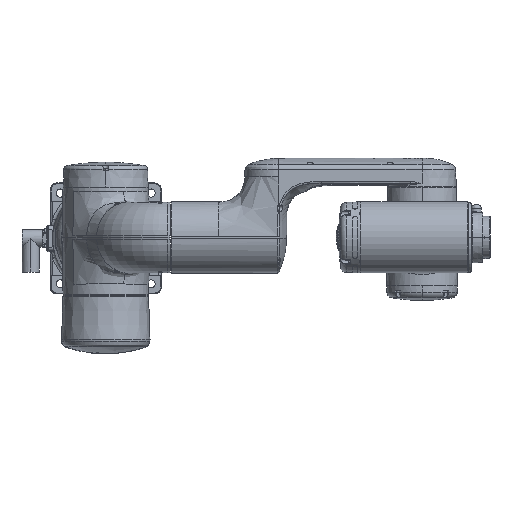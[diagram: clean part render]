
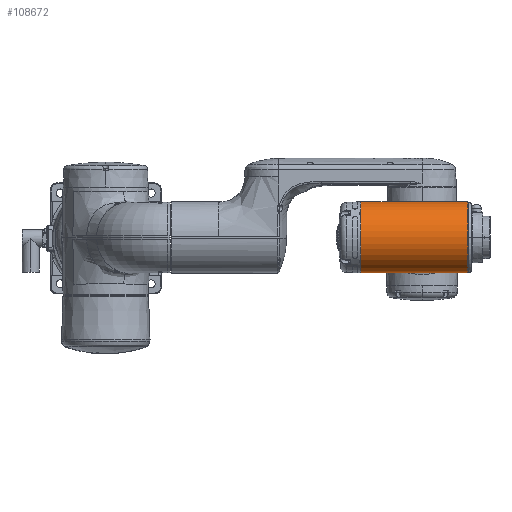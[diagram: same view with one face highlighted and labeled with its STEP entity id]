
A CAD part, top view. The second image highlights one B-rep face of the part: STEP entity #108672.
In plain terms, the highlighted cylindrical face has radius 52.75 mm (diameter 105.5 mm), a partial arc.
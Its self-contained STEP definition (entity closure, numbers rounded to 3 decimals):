
#3991 = VECTOR ( 'NONE', #4754, 1000. ) ;
#4754 = DIRECTION ( 'NONE',  ( -1., 0., 0. ) ) ;
#7292 = LINE ( 'NONE', #36600, #3991 ) ;
#7694 = CARTESIAN_POINT ( 'NONE',  ( 379., 0., 899. ) ) ;
#8136 = DIRECTION ( 'NONE',  ( 1., 0., 0. ) ) ;
#12856 = CIRCLE ( 'NONE', #23726, 52.75 ) ;
#15051 = EDGE_CURVE ( 'NONE', #103945, #23596, #12856, .T. ) ;
#18197 = AXIS2_PLACEMENT_3D ( 'NONE', #7694, #8136, #80394 ) ;
#18365 = CARTESIAN_POINT ( 'NONE',  ( 215.775, 0., 899. ) ) ;
#23596 = VERTEX_POINT ( 'NONE', #26800 ) ;
#23726 = AXIS2_PLACEMENT_3D ( 'NONE', #72506, #74275, #103907 ) ;
#24477 = CIRCLE ( 'NONE', #18197, 52.75 ) ;
#26800 = CARTESIAN_POINT ( 'NONE',  ( 538., -52.75, 899. ) ) ;
#29603 = CARTESIAN_POINT ( 'NONE',  ( 379., 52.75, 899. ) ) ;
#30029 = VERTEX_POINT ( 'NONE', #112909 ) ;
#30874 = ORIENTED_EDGE ( 'NONE', *, *, #36866, .T. ) ;
#36600 = CARTESIAN_POINT ( 'NONE',  ( 215.775, 52.75, 899. ) ) ;
#36866 = EDGE_CURVE ( 'NONE', #103945, #127969, #7292, .T. ) ;
#49734 = LINE ( 'NONE', #109877, #89896 ) ;
#54790 = ORIENTED_EDGE ( 'NONE', *, *, #15051, .F. ) ;
#55912 = FACE_OUTER_BOUND ( 'NONE', #126119, .T. ) ;
#72506 = CARTESIAN_POINT ( 'NONE',  ( 538., 0., 899. ) ) ;
#74275 = DIRECTION ( 'NONE',  ( 1., 0., 0. ) ) ;
#76270 = EDGE_CURVE ( 'NONE', #23596, #30029, #49734, .T. ) ;
#78709 = ORIENTED_EDGE ( 'NONE', *, *, #76270, .F. ) ;
#80394 = DIRECTION ( 'NONE',  ( 0., 1., 0. ) ) ;
#89197 = DIRECTION ( 'NONE',  ( -1., 0., 0. ) ) ;
#89896 = VECTOR ( 'NONE', #89197, 1000. ) ;
#103907 = DIRECTION ( 'NONE',  ( 0., 0., -1. ) ) ;
#103945 = VERTEX_POINT ( 'NONE', #111851 ) ;
#108672 = ADVANCED_FACE ( 'NONE', ( #55912 ), #131517, .T. ) ;
#109877 = CARTESIAN_POINT ( 'NONE',  ( 215.775, -52.75, 899. ) ) ;
#111851 = CARTESIAN_POINT ( 'NONE',  ( 538., 52.75, 899. ) ) ;
#112909 = CARTESIAN_POINT ( 'NONE',  ( 379., -52.75, 899. ) ) ;
#113982 = DIRECTION ( 'NONE',  ( 0., 1., 0. ) ) ;
#120631 = ORIENTED_EDGE ( 'NONE', *, *, #121054, .T. ) ;
#121054 = EDGE_CURVE ( 'NONE', #127969, #30029, #24477, .T. ) ;
#124631 = AXIS2_PLACEMENT_3D ( 'NONE', #18365, #132045, #113982 ) ;
#126119 = EDGE_LOOP ( 'NONE', ( #78709, #54790, #30874, #120631 ) ) ;
#127969 = VERTEX_POINT ( 'NONE', #29603 ) ;
#131517 = CYLINDRICAL_SURFACE ( 'NONE', #124631, 52.75 ) ;
#132045 = DIRECTION ( 'NONE',  ( -1., 0., 0. ) ) ;
